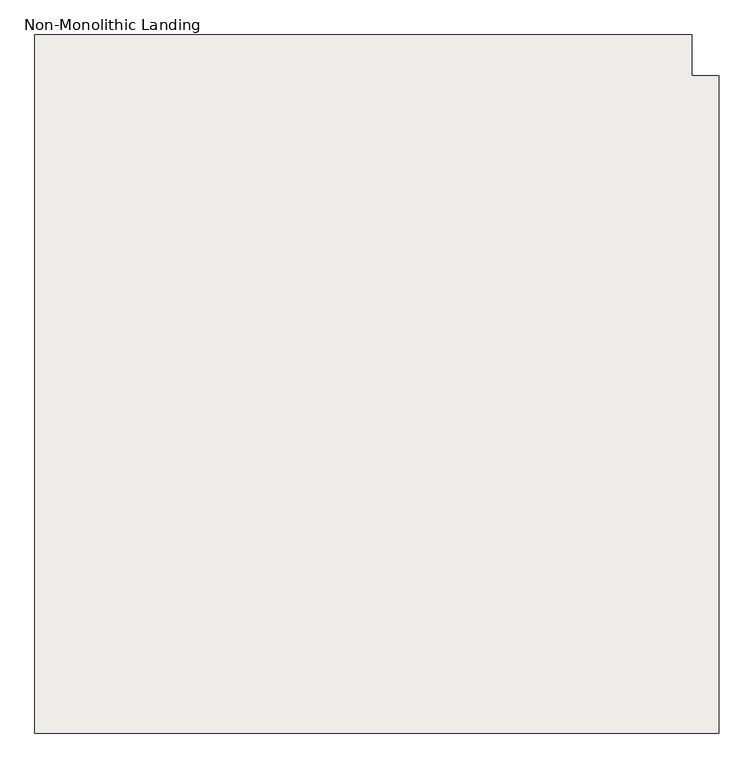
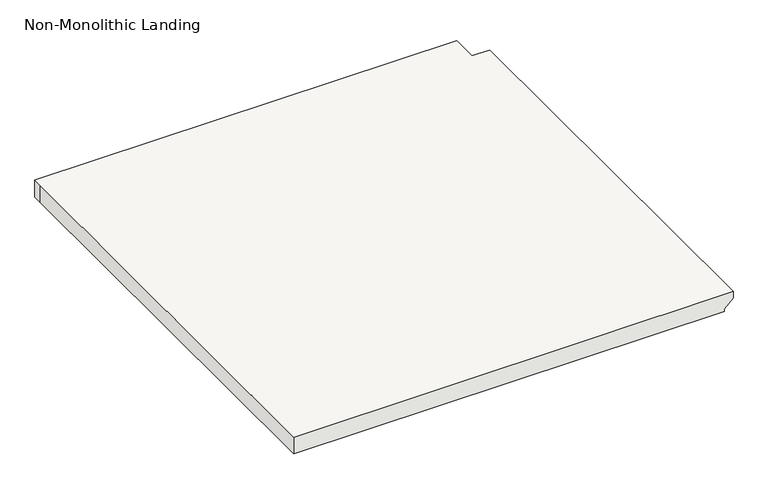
"""IFC4 building model written with IfcOpenShell, lengths in millimetres: slab geometry, Non-Monolithic Landing."""

from ifc_helpers import new_model, si_unit, origin, place, context, project, spatial, faceted_brep, source, transform, mapped, element, save


def non_monolithic_landing_91d4c737(model_context):
    return source(origin(), model_context, "Body", "Brep", [
        faceted_brep([(-17871.7273699, -13711.4253362, 1828.8), (-17871.7273699, -13660.6253362, 1828.8), (-17871.7273699, -13635.2253362, 1828.8), (-19090.9273699, -13635.2253362, 1828.8), (-19090.9273699, -13660.6253362, 1828.8), (-19090.9273699, -14930.6253362, 1828.8), (-17820.9273699, -14930.6253362, 1828.8), (-17820.9273699, -13711.4253362, 1828.8), (-17846.3273699, -13711.4253362, 1778.0), (-17846.3273699, -14930.6253362, 1778.0), (-19090.9273699, -14930.6253362, 1778.0), (-19090.9273699, -13660.6253362, 1778.0), (-19090.9273699, -13635.2253362, 1778.0), (-17871.7273699, -13635.2253362, 1778.0), (-17871.7273699, -13660.6253362, 1778.0), (-17871.7273699, -13711.4253362, 1778.0), (-17820.9273699, -13711.4253362, 1809.75), (-17846.3273699, -13711.4253362, 1784.35), (-17820.9273699, -14930.6253362, 1809.75), (-17846.3273699, -14930.6253362, 1784.35)], [[[0, 1, 2, 3, 4, 5, 6, 7]], [[8, 9, 10, 11, 12, 13, 14, 15]], [[0, 7, 16, 17, 8, 15]], [[2, 1, 14, 13]], [[4, 3, 12, 11]], [[5, 4, 11, 10]], [[16, 7, 6, 18]], [[17, 16, 18, 19]], [[9, 8, 17, 19]], [[1, 0, 15, 14]], [[3, 2, 13, 12]], [[6, 5, 10, 9, 19, 18]]]),
    ])


if __name__ == "__main__":
    model = new_model("IFC4")
    model_context = context("Model", 3, world=origin())
    ifc_project = project(units=[si_unit("LENGTHUNIT", "METRE", prefix="MILLI")], contexts=[model_context])
    site = spatial("IfcSite", under=ifc_project)
    building = spatial("IfcBuilding", under=site)
    placement = place(None, origin())
    non_monolithic_landing_shape = non_monolithic_landing_91d4c737(model_context)
    element("IfcSlab", 1, ObjectType="Non-Monolithic Landing", at=placement, inside=building, context=model_context, shape_type="MappedRepresentation", body=[
        mapped(non_monolithic_landing_shape, transform((0.0, 0.0, 0.0), x_axis=(1.0, 0.0, 0.0), y_axis=(0.0, 1.0, 0.0), z_axis=(0.0, 0.0, 1.0))),
    ])
    save(model, "model.ifc")
